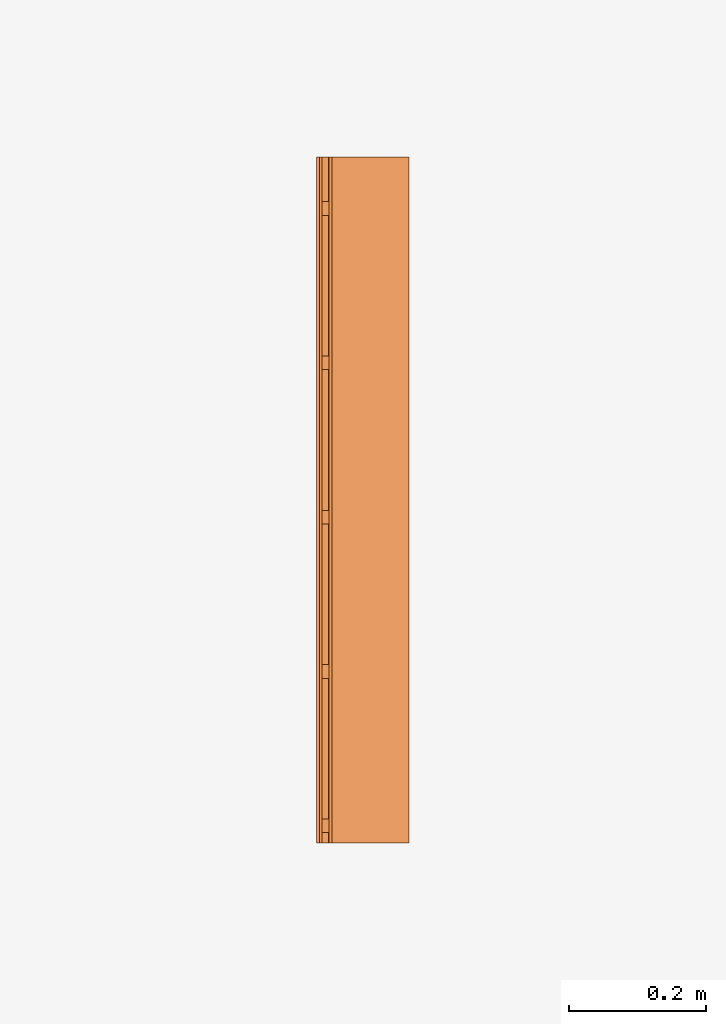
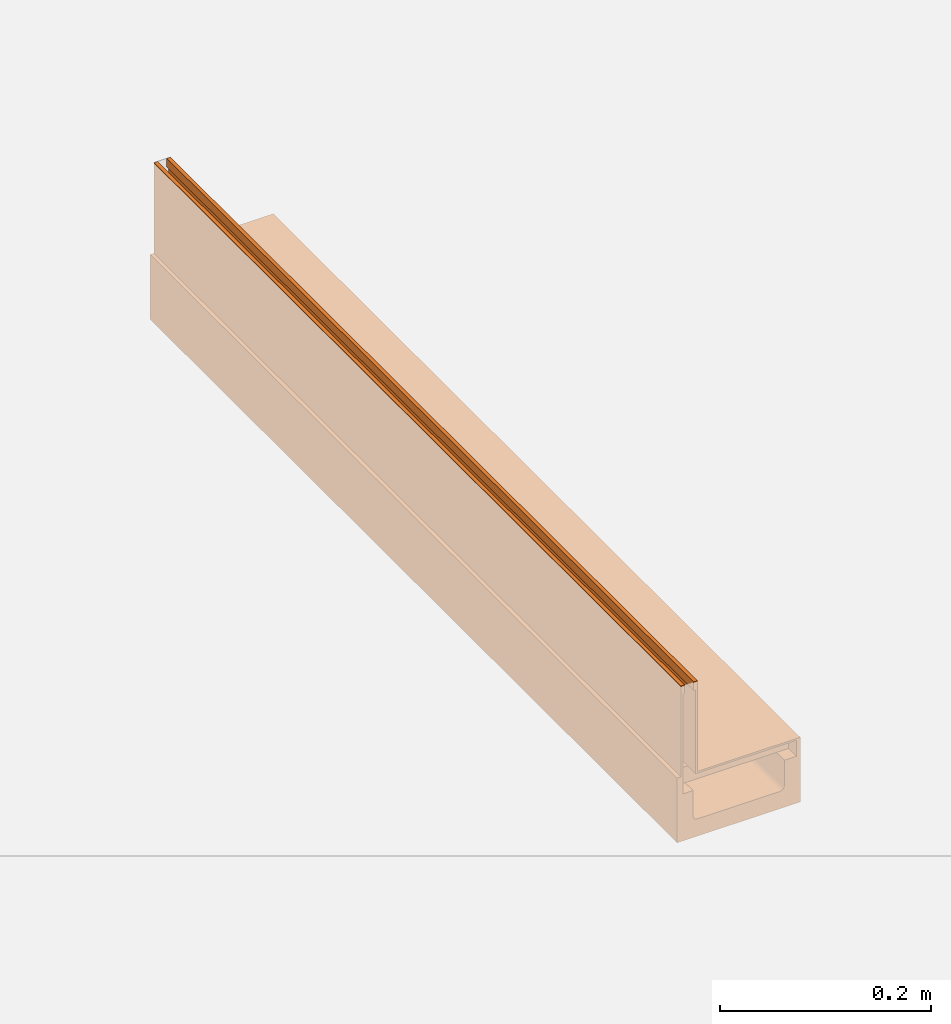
# One storey, part 2 of 2: 1 proxy.
"""IFC2X3 building model written with IfcOpenShell, lengths in millimetres."""

from ifc_helpers import new_model, entity, si_unit, converted_unit, direction, frame, frame_2d, origin, place, context, subcontext, project, spatial, polyline, circle_curve, parameter, trimmed, segment, composite_curve, outline, extrude, source, transform, mapped, material, material_list, element, save


model = new_model("IFC2X3")

# Units and contexts
model_context = context("Model", 3, precision=1e-06, world=origin(), true_north=direction((2.0, 6.12303176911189e-17, 1.0)))
context_of_model = context(None, 3, precision=1e-06, world=origin(), true_north=direction((2.0, 6.12303176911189e-17, 1.0)))
body_context = subcontext(model_context, "Body", "Model", "MODEL_VIEW")
ifc_project = project(units=[si_unit("LENGTHUNIT", "METRE", prefix="MILLI"), si_unit("AREAUNIT", "SQUARE_METRE", prefix="MILLI"), si_unit("VOLUMEUNIT", "CUBIC_METRE", prefix="MILLI"), converted_unit("PLANEANGLEUNIT", "DEGREE", entity("IfcRatioMeasure", 0.0174532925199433), si_unit("PLANEANGLEUNIT", "RADIAN"), dimensions=[0, 0, 0, 0, 0, 0, 0]), si_unit("TIMEUNIT", "SECOND")], contexts=[model_context, context_of_model])

# Site, building, storey
site_placement = place(None, origin())
site = spatial("IfcSite", under=ifc_project, at=site_placement, Name="Default", CompositionType="ELEMENT")
building_placement = place(site_placement, origin())
building = spatial("IfcBuilding", under=site, at=building_placement, CompositionType="ELEMENT")
storey_placement = place(building_placement, origin())
storey = spatial("IfcBuildingStorey", under=building, at=storey_placement, Name="Level 1", CompositionType="ELEMENT", Elevation=0.0)

# Proxy
ifc_material_1 = material(Name="Stainless Steel (F)")
ifc_material_2 = material(Name="Vienite® Synthetic Resin Concrete")
ifc_material_list = material_list([ifc_material_1, ifc_material_2])
shared_shape = source(origin(), body_context, "Body", "SweptSolid", [
    extrude(outline(polyline([(-9.24999999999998, -10.0), (9.25000000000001, -10.0), (9.24999999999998, 10.0), (-9.25000000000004, 10.0), (-9.24999999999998, -10.0)]), holes=[polyline([(7.25000000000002, -8.0), (-7.25000000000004, -8.0), (-7.25000000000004, 8.0), (7.24999999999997, 8.0), (7.25000000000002, -8.0)])]), frame((-61.2500000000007, 25.0, -116.249999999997), z_axis=(1.0, 0.0, 0.0), x_axis=(0.0, 0.0, -1.0)), (0.0, 0.0, 1.0), 124.5),
    extrude(outline(polyline([(-9.24999999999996, -10.0), (9.25000000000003, -10.0), (9.24999999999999, 10.0), (-9.25000000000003, 10.0), (-9.24999999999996, -10.0)]), holes=[polyline([(7.25000000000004, -8.0), (-7.25000000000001, -8.0), (-7.25000000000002, 8.0), (7.24999999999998, 8.0), (7.25000000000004, -8.0)])]), frame((-61.2500000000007, 250.0, -116.249999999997), z_axis=(1.0, 0.0, 0.0), x_axis=(0.0, 0.0, -1.0)), (0.0, 0.0, 1.0), 124.5),
    extrude(outline(polyline([(-9.24999999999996, -10.0), (9.25000000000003, -10.0), (9.24999999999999, 10.0), (-9.25000000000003, 10.0), (-9.24999999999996, -10.0)]), holes=[polyline([(7.25000000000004, -8.0), (-7.25000000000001, -8.0), (-7.25000000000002, 8.0), (7.24999999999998, 8.0), (7.25000000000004, -8.0)])]), frame((-61.2500000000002, 475.0, -116.249999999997), z_axis=(1.0, 0.0, 0.0), x_axis=(0.0, 0.0, -1.0)), (0.0, 0.0, 1.0), 124.5),
    extrude(outline(polyline([(45.5, -29.6250000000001), (55.5, -29.6250000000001), (55.5, -25.6249999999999), (-49.5, -25.6249999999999), (-49.5000000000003, 82.875), (-51.5, 82.875), (-51.4999999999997, -27.625), (45.5, -27.625), (45.5, -29.6250000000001)])), frame((-19.6250000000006, 0.0, -55.4999999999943), z_axis=(0.0, 1.0, 0.0), x_axis=(0.0, 0.0, 1.0)), (0.0, 0.0, 1.0), 1000.0),
    extrude(outline(polyline([(-80.3333333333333, -2.0), (45.1666666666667, -2.0), (45.1666666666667, 2.0), (35.1666666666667, 2.0), (35.1666666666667, 0.0), (-80.3333333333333, 0.0), (-80.3333333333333, -2.0)])), frame((-61.2500000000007, 0.0, -45.166666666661), z_axis=(0.0, 1.0, 0.0), x_axis=(0.0, 0.0, 1.0)), (0.0, 0.0, 1.0), 1000.0),
    extrude(outline(polyline([(-9.25000000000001, -10.0), (9.24999999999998, -10.0), (9.25000000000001, 10.0), (-9.25000000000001, 10.0), (-9.25000000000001, -10.0)]), holes=[polyline([(7.24999999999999, -8.0), (-7.25000000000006, -8.0), (-7.25000000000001, 8.0), (7.24999999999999, 8.0), (7.24999999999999, -8.0)])]), frame((-61.2500000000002, 700.0, -116.249999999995), z_axis=(1.0, 0.0, 0.0), x_axis=(0.0, 0.0, -1.0)), (0.0, 0.0, 1.0), 124.5),
    extrude(outline(polyline([(-9.24999999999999, -10.0), (9.24999999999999, -10.0), (9.25000000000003, 10.0), (-9.24999999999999, 10.0), (-9.24999999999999, -10.0)]), holes=[polyline([(7.25000000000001, -8.0), (-7.25000000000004, -8.0), (-7.24999999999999, 8.0), (7.25000000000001, 8.0), (7.25000000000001, -8.0)])]), frame((-61.2499999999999, 925.0, -116.249999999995), z_axis=(1.0, 0.0, 0.0), x_axis=(0.0, 0.0, -1.0)), (0.0, 0.0, 1.0), 124.5),
    extrude(outline(composite_curve([segment(polyline([(-50.0, -18.4285714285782), (-50.0, 11.0714285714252)]), True, "CONTINUOUS"), segment(polyline([(-50.0, 11.0714285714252), (-63.249999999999, 11.0714285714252)]), True, "CONTINUOUS"), segment(polyline([(-63.249999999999, 11.0714285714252), (-63.249999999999, 31.5714285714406)]), True, "CONTINUOUS"), segment(polyline([(-63.249999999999, 31.5714285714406), (-67.5000000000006, 31.5714285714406)]), True, "CONTINUOUS"), segment(polyline([(-67.5000000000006, 31.5714285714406), (-67.5000000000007, -43.4285714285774)]), True, "CONTINUOUS"), segment(polyline([(-67.5000000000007, -43.4285714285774), (67.4999999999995, -43.4285714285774)]), True, "CONTINUOUS"), segment(polyline([(67.4999999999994, -43.4285714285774), (67.4999999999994, 31.5714285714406)]), True, "CONTINUOUS"), segment(polyline([(67.4999999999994, 31.5714285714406), (63.2500000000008, 31.5714285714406)]), True, "CONTINUOUS"), segment(polyline([(63.2500000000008, 31.5714285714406), (63.2500000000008, 11.0714285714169)]), True, "CONTINUOUS"), segment(polyline([(63.2500000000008, 11.0714285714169), (50.0, 11.0714285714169)]), True, "CONTINUOUS"), segment(polyline([(50.0, 11.0714285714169), (50.0, -18.4285714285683)]), True, "CONTINUOUS"), segment(trimmed(circle_curve(frame_2d((45.0, -18.4285714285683), x_axis=(1.0, 0.0)), 5.0), [parameter(270.0)], [parameter(0.0)], True, "PARAMETER"), False, "CONTINUOUS"), segment(polyline([(45.0, -23.4285714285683), (-45.0, -23.4285714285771)]), True, "CONTINUOUS"), segment(trimmed(circle_curve(frame_2d((-45.0, -18.4285714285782), x_axis=(1.0, 0.0)), 5.0), [parameter(180.0)], [parameter(270.0)], True, "PARAMETER"), False, "CONTINUOUS")], self_intersect=False)), frame((0.0, 0.0, -136.571428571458), z_axis=(0.0, -1.0, 0.0), x_axis=(1.0, 0.0, 0.0)), (0.0, 0.0, -1.0), 1000.0),
])
proxy_placement = place(storey_placement, frame((0.0, -230.0, 0.0)))
element("IfcBuildingElementProxy", 1, at=proxy_placement, inside=storey, material=ifc_material_list, Name="Civil-Drainage-Channel-ACO-MultiDrain-M100DS-Brickslot-Channel-System:24075 - No 075 Constant Depth Channel - 1000mm LG - Invert Depth 55mm:24075 - No 075 Constant Depth Channel - 1000mm LG - Invert Depth 55mm", ObjectType="24075 - No 075 Constant Depth Channel - 1000mm LG - Invert Depth 55mm", CompositionType="ELEMENT", context=body_context, shape_type="MappedRepresentation", body=[
    mapped(shared_shape, transform((0.0, 0.0, 0.0), scale=1.0)),
])

save(model, "model.ifc")
